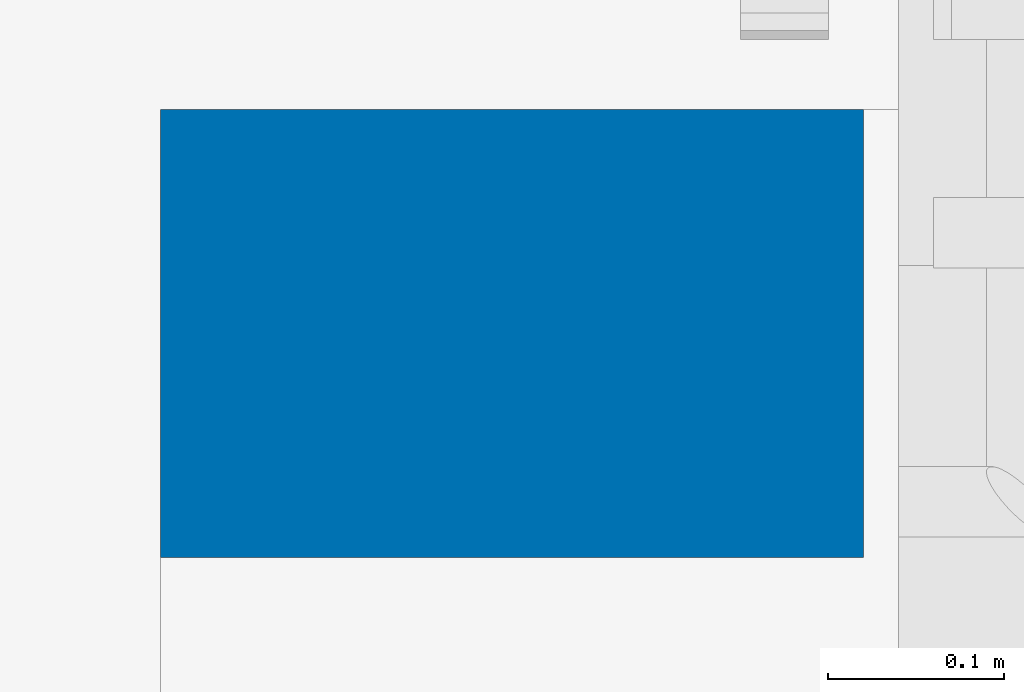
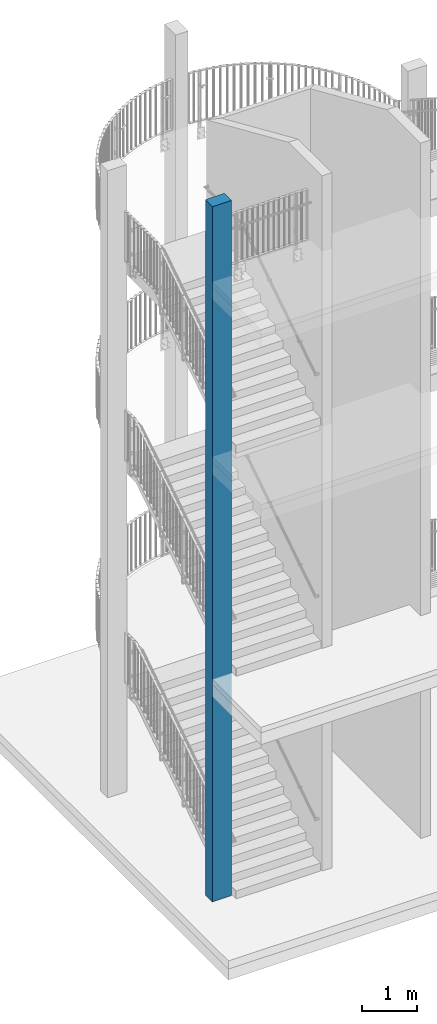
# One storey, part 1 of 296: 1 column.
"""IFC2X3 building model written with IfcOpenShell, lengths in millimetres."""

from ifc_helpers import new_model, entity, si_unit, converted_unit, frame, origin, origin_with_axes, place, context, project, spatial, polyline, outline, extrude, material, element, save


model = new_model("IFC2X3")

# Units and contexts
model_context = context("Model", 3, precision=1e-09, world=origin_with_axes())
ifc_project = project(units=[si_unit("LENGTHUNIT", "METRE", prefix="MILLI"), si_unit("AREAUNIT", "SQUARE_METRE"), si_unit("VOLUMEUNIT", "CUBIC_METRE"), converted_unit("PLANEANGLEUNIT", "DEGREE", entity("IfcPlaneAngleMeasure", 0.01745329), si_unit("PLANEANGLEUNIT", "RADIAN"), dimensions=[0, 0, 0, 0, 0, 0, 0])], contexts=[model_context])

# Site, building, storey
site_placement = place(None, origin_with_axes())
site = spatial("IfcSite", under=ifc_project, at=site_placement, Name="TZD-S?d | Treppenhausgel?nder", CompositionType="ELEMENT")
building_placement = place(site_placement, origin_with_axes())
building = spatial("IfcBuilding", under=site, at=building_placement, Name="Struktur 1", CompositionType="ELEMENT")
storey_placement = place(building_placement, origin_with_axes())
storey = spatial("IfcBuildingStorey", under=building, at=storey_placement, Name="Default Storey", CompositionType="ELEMENT", Elevation=0.0)

# Column
ifc_material = material(Name="C20/25")
column_placement = place(None, frame((-200.0, -3902.5, 0.0), z_axis=(0.0, 0.0, -1.0), x_axis=(0.0, 1.0, 0.0)))
element("IfcColumn", 1, at=column_placement, inside=storey, material=ifc_material, Name="Column", ObjectType="Column", context=model_context, shape_type="SweptSolid", body=[
    extrude(outline(polyline([(127.5, -200.0), (127.5, 200.0), (-127.5, 200.0), (-127.5, -200.0), (127.5, -200.0)])), origin(), (0.0, 0.0, -1.0), 15300.0),
])

save(model, "model.ifc")
